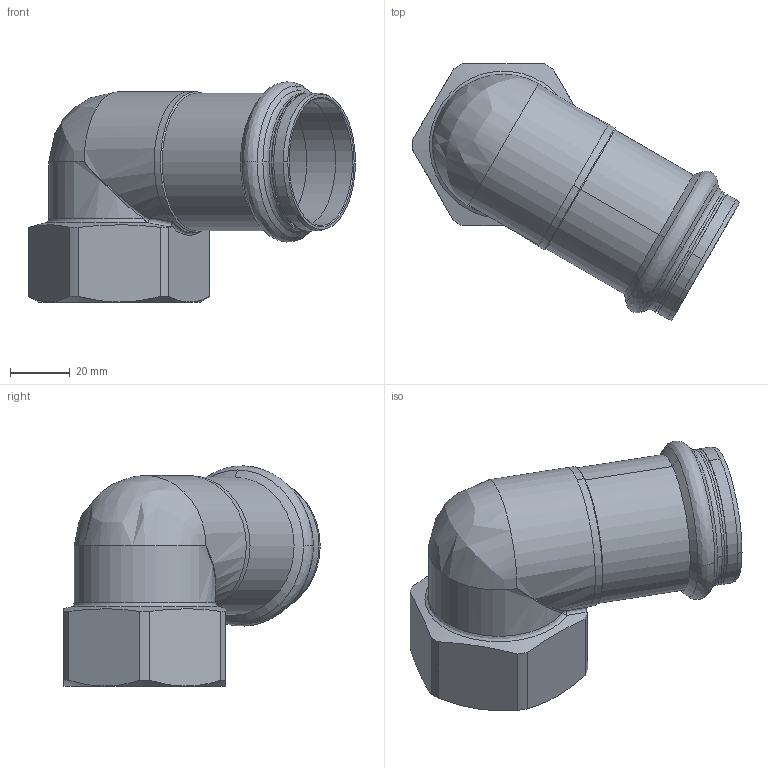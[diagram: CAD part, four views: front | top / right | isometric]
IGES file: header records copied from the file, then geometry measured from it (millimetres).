
Start section: Elysium IGES Interface
Global section: file name: F:\3d modellen sudo\S-Pr VP\SP6090GV\6090GVW42112.igs; native system: CoCreate Modeling 17.00A  17-Jun-2010; preprocessor: CoCreate IGES_3D V2.2; author: Unknown; organization: Unknown; date: 20130128.101123; units: millimetre
Bounding box: 108.98 x 85.48 x 73.38 mm (x, y, z)
Volume: 81966.5 mm3; surface area: 43233.2 mm2
Topology: 1 solids, 2 shells, 98 faces, 243 edges, 148 vertices
Faces by surface type: bspline 98
